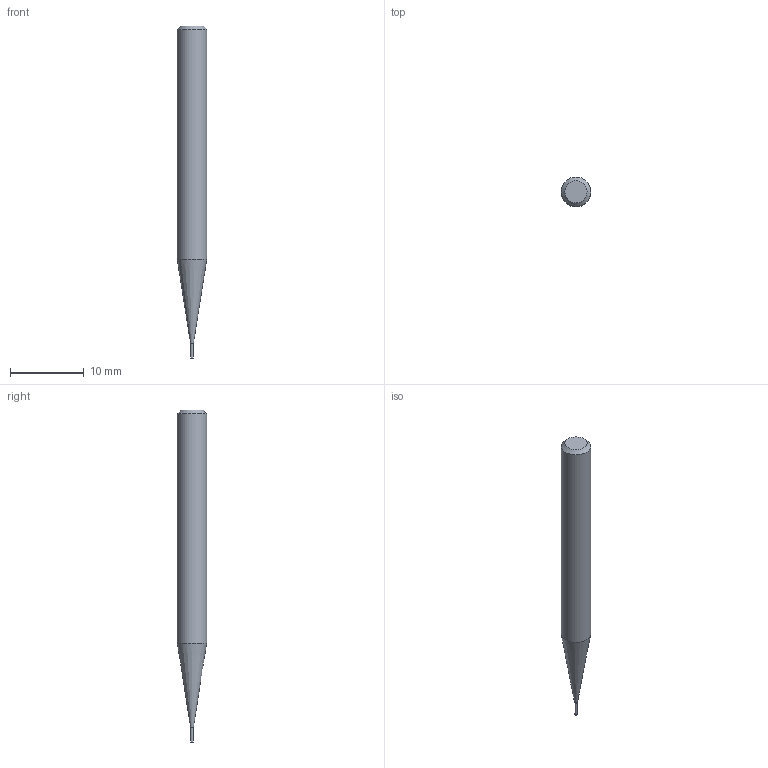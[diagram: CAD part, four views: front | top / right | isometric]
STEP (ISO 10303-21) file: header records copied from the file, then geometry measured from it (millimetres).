
FILE_DESCRIPTION((''),'2;1');
FILE_NAME('C:\Users\nsx150\AppData\Local\Temp\Mastercam 2022\7LNIXFDSL9\TEMP.stp','2024-06-19T18:19:55',(''),(''),'STEP Write','Mastercam 2022 ... CNC Software, Inc.','');
FILE_SCHEMA(('AUTOMOTIVE_DESIGN'));
Length unit declared in the file: millimetre
Products named in the file (1): None
Bounding box: 4 x 4 x 45 mm (x, y, z)
Volume: 449.2 mm3; surface area: 488.5 mm2
Topology: 2 solids, 2 shells, 8 faces, 10 edges, 6 vertices
Faces by surface type: plane 4, cylinder 2, cone 2
Full cylindrical faces by diameter (mm): 0.4 x1, 4 x1
Entity records: 190 total; most frequent: DIRECTION 32, CARTESIAN_POINT 22, AXIS2_PLACEMENT_3D 16, ORIENTED_EDGE 12, EDGE_LOOP 12, STYLED_ITEM 11, ADVANCED_FACE 8, VERTEX_POINT 6
